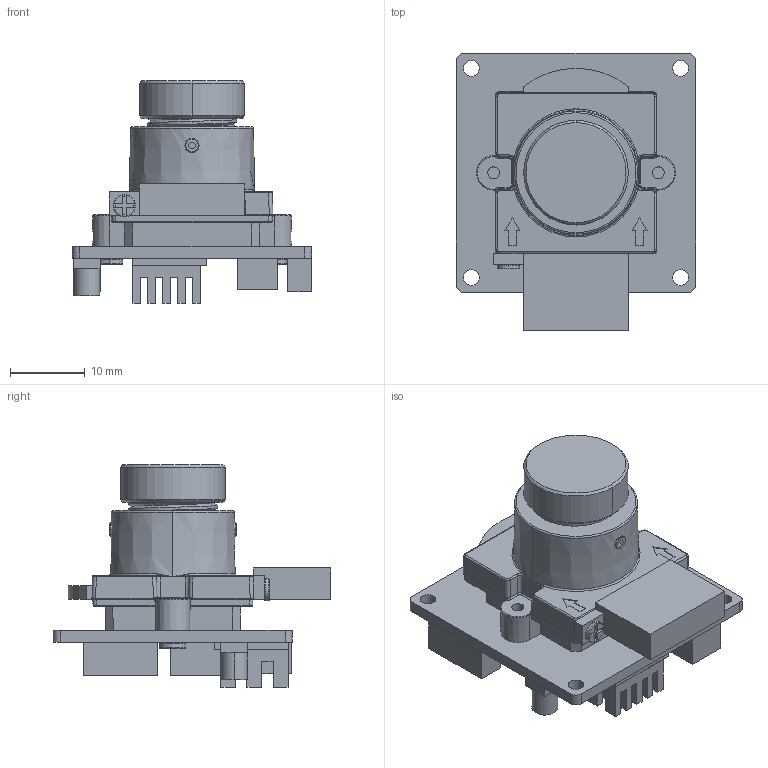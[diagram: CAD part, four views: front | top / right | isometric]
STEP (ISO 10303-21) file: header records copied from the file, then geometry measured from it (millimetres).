
FILE_DESCRIPTION((''),'2;1');
FILE_NAME('AS-BCAM-S32-00-B_ASSY','2023-11-09T',('USER'),(''),'PRO/ENGINEER BY PARAMETRIC TECHNOLOGY CORPORATION, 2012300','PRO/ENGINEER BY PARAMETRIC TECHNOLOGY CORPORATION, 2012300','');
FILE_SCHEMA(('AUTOMOTIVE_DESIGN_CC2 { 1 2 10303 214 -1 1 5 2 }'));
Length unit declared in the file: millimetre
Products named in the file (8): 71A514163A_PCB_MAIN; 342000075_HOLDER_LENS; 817002042A_MS_CH_M2X4; 700116155_TDN_FILTER; 817001071_MS_CH_M1_7X3_HEAD3; 612036004_FIXED_LENS-B3601; 847002032_SET_SCREW_M2X3; AS-BCAM-S32-00-B_ASSY
Assembly tree (9 placements, depth 2):
  AS-BCAM-S32-00-B_ASSY
    71A514163A_PCB_MAIN
    342000075_HOLDER_LENS
    817002042A_MS_CH_M2X4  x2
    700116155_TDN_FILTER
    817001071_MS_CH_M1_7X3_HEAD3
    612036004_FIXED_LENS-B3601
    847002032_SET_SCREW_M2X3  x2
Bounding box: 32 x 37.11 x 29.75 mm (x, y, z)
Volume: 7951.8 mm3; surface area: 8370.6 mm2
Topology: 9 solids, 9 shells, 533 faces, 1316 edges, 819 vertices
Faces by surface type: plane 259, cylinder 137, bspline 79, cone 32, torus 18, sphere 8
Entity records: 24442 total; most frequent: CARTESIAN_POINT 9583, ORIENTED_EDGE 2444, DIRECTION 2125, EDGE_CURVE 1222, PRESENTATION_STYLE_ASSIGNMENT 1016, STYLED_ITEM 1016, CURVE_STYLE 904, VERTEX_POINT 761
